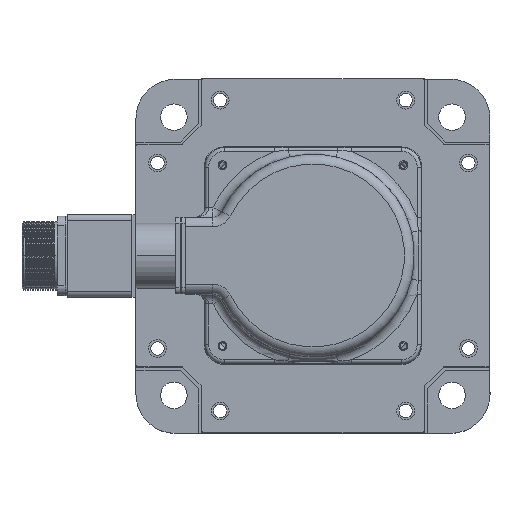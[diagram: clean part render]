
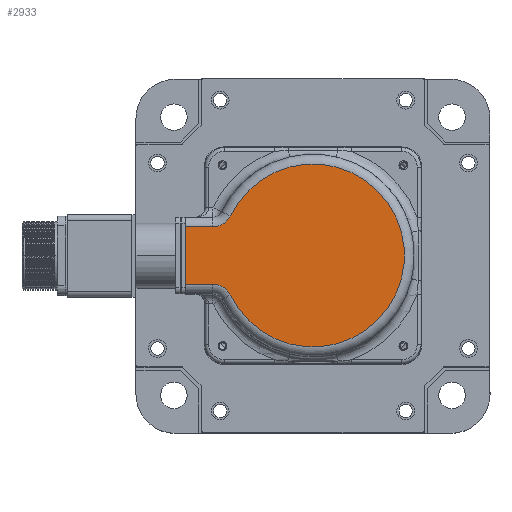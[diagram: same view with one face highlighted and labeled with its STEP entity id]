
A CAD part, top view. The second image highlights one B-rep face of the part: STEP entity #2933.
In plain terms, the highlighted planar face has unit normal (0, 0, 1).
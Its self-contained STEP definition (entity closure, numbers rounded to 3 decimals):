
#2060 = DIRECTION ( 'NONE',  ( -1., 0., 0. ) ) ;
#2929 = ORIENTED_EDGE ( 'NONE', *, *, #6557, .T. ) ;
#2933 = ADVANCED_FACE ( 'NONE', ( #10512 ), #3235, .T. ) ;
#3235 = PLANE ( 'NONE',  #5914 ) ;
#5295 = VERTEX_POINT ( 'NONE', #15833 ) ;
#5477 = VERTEX_POINT ( 'NONE', #12013 ) ;
#5616 = VERTEX_POINT ( 'NONE', #18047 ) ;
#5914 = AXIS2_PLACEMENT_3D ( 'NONE', #11023, #32103, #21044 ) ;
#6010 = VECTOR ( 'NONE', #23465, 1000. ) ;
#6557 = EDGE_CURVE ( 'NONE', #5477, #5616, #24315, .T. ) ;
#6864 = VECTOR ( 'NONE', #13916, 1000. ) ;
#7759 = DIRECTION ( 'NONE',  ( 0., 0., 1. ) ) ;
#8212 = CARTESIAN_POINT ( 'NONE',  ( -65., 0., 334. ) ) ;
#8254 = DIRECTION ( 'NONE',  ( -1., 0., 0. ) ) ;
#8858 = EDGE_CURVE ( 'NONE', #5477, #17800, #22812, .T. ) ;
#8893 = VERTEX_POINT ( 'NONE', #23450 ) ;
#9086 = CARTESIAN_POINT ( 'NONE',  ( -50.912, -14.5, 334. ) ) ;
#9173 = ORIENTED_EDGE ( 'NONE', *, *, #11915, .F. ) ;
#9940 = EDGE_LOOP ( 'NONE', ( #9173, #29729, #15650, #10030, #19501, #2929 ) ) ;
#10030 = ORIENTED_EDGE ( 'NONE', *, *, #13257, .T. ) ;
#10346 = CARTESIAN_POINT ( 'NONE',  ( -47.666, -14.5, 334. ) ) ;
#10512 = FACE_OUTER_BOUND ( 'NONE', #9940, .T. ) ;
#10515 = DIRECTION ( 'NONE',  ( 0., 0., 1. ) ) ;
#11023 = CARTESIAN_POINT ( 'NONE',  ( 0., 0., 334. ) ) ;
#11468 = AXIS2_PLACEMENT_3D ( 'NONE', #23981, #10515, #8254 ) ;
#11915 = EDGE_CURVE ( 'NONE', #21808, #5616, #32991, .T. ) ;
#12013 = CARTESIAN_POINT ( 'NONE',  ( -41.901, -20.164, 334. ) ) ;
#13257 = EDGE_CURVE ( 'NONE', #5295, #17800, #26222, .T. ) ;
#13916 = DIRECTION ( 'NONE',  ( 0., 1., 0. ) ) ;
#15650 = ORIENTED_EDGE ( 'NONE', *, *, #30146, .F. ) ;
#15833 = CARTESIAN_POINT ( 'NONE',  ( -65., -14.5, 334. ) ) ;
#17246 = CARTESIAN_POINT ( 'NONE',  ( -50.912, -24.5, 334. ) ) ;
#17456 = CARTESIAN_POINT ( 'NONE',  ( 0., 14.5, 334. ) ) ;
#17800 = VERTEX_POINT ( 'NONE', #9086 ) ;
#17857 = AXIS2_PLACEMENT_3D ( 'NONE', #17246, #25362, #30708 ) ;
#18047 = CARTESIAN_POINT ( 'NONE',  ( -41.901, 20.164, 334. ) ) ;
#19501 = ORIENTED_EDGE ( 'NONE', *, *, #8858, .F. ) ;
#19563 = CARTESIAN_POINT ( 'NONE',  ( -50.912, 14.5, 334. ) ) ;
#20043 = DIRECTION ( 'NONE',  ( -1., 0., 0. ) ) ;
#21044 = DIRECTION ( 'NONE',  ( -1., 0., 0. ) ) ;
#21808 = VERTEX_POINT ( 'NONE', #19563 ) ;
#22672 = AXIS2_PLACEMENT_3D ( 'NONE', #23145, #7759, #2060 ) ;
#22812 = CIRCLE ( 'NONE', #17857, 10. ) ;
#23145 = CARTESIAN_POINT ( 'NONE',  ( 0., 0., 334. ) ) ;
#23450 = CARTESIAN_POINT ( 'NONE',  ( -65., 14.5, 334. ) ) ;
#23465 = DIRECTION ( 'NONE',  ( 1., 0., 0. ) ) ;
#23981 = CARTESIAN_POINT ( 'NONE',  ( -50.912, 24.5, 334. ) ) ;
#24315 = CIRCLE ( 'NONE', #22672, 46.5 ) ;
#24675 = VECTOR ( 'NONE', #20043, 1000. ) ;
#25362 = DIRECTION ( 'NONE',  ( 0., 0., 1. ) ) ;
#26222 = LINE ( 'NONE', #10346, #6010 ) ;
#28158 = LINE ( 'NONE', #17456, #24675 ) ;
#29729 = ORIENTED_EDGE ( 'NONE', *, *, #32871, .T. ) ;
#30146 = EDGE_CURVE ( 'NONE', #5295, #8893, #32558, .T. ) ;
#30708 = DIRECTION ( 'NONE',  ( -1., 0., 0. ) ) ;
#32103 = DIRECTION ( 'NONE',  ( 0., 0., 1. ) ) ;
#32558 = LINE ( 'NONE', #8212, #6864 ) ;
#32871 = EDGE_CURVE ( 'NONE', #21808, #8893, #28158, .T. ) ;
#32991 = CIRCLE ( 'NONE', #11468, 10. ) ;
